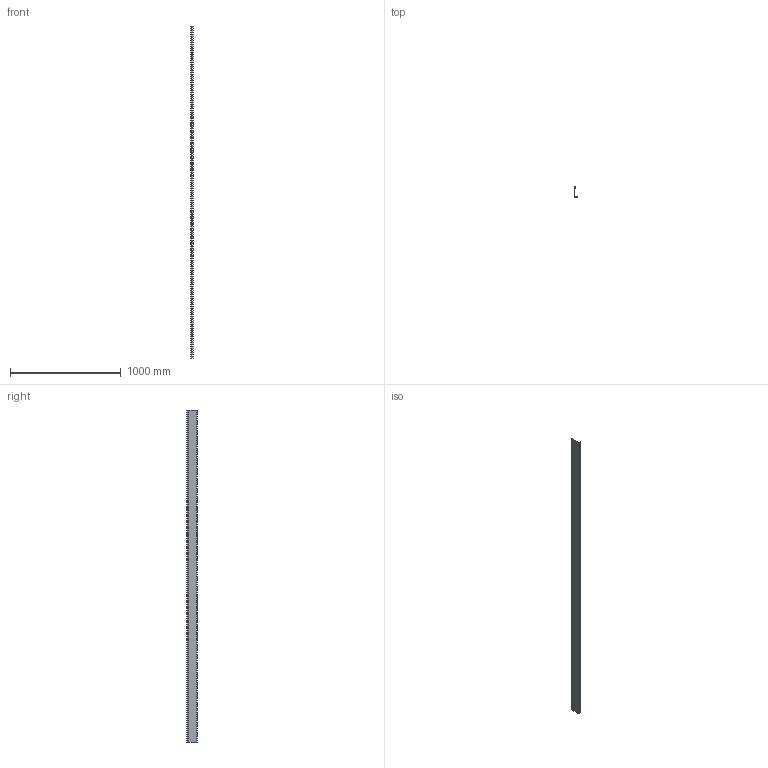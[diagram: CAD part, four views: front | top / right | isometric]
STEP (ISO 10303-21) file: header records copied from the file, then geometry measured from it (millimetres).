
FILE_DESCRIPTION (( 'STEP AP203' ), '1' );
FILE_NAME ('PS 100.STEP', '2020-02-12T08:05:45', ( '' ), ( '' ), 'SwSTEP 2.0', 'SolidWorks 2019', '' );
FILE_SCHEMA (( 'CONFIG_CONTROL_DESIGN' ));
Length unit declared in the file: millimetre
Products named in the file (1): PS 100
Bounding box: 20 x 94.5 x 3000 mm (x, y, z)
Volume: 239810.7 mm3; surface area: 692663.4 mm2
Topology: 1 solids, 1 shells, 484 faces, 1382 edges, 900 vertices
Faces by surface type: plane 258, cylinder 226
Entity records: 16147 total; most frequent: DIRECTION 2804, CARTESIAN_POINT 2767, ORIENTED_EDGE 2764, EDGE_CURVE 1382, AXIS2_PLACEMENT_3D 937, VECTOR 930, LINE 930, VERTEX_POINT 900
